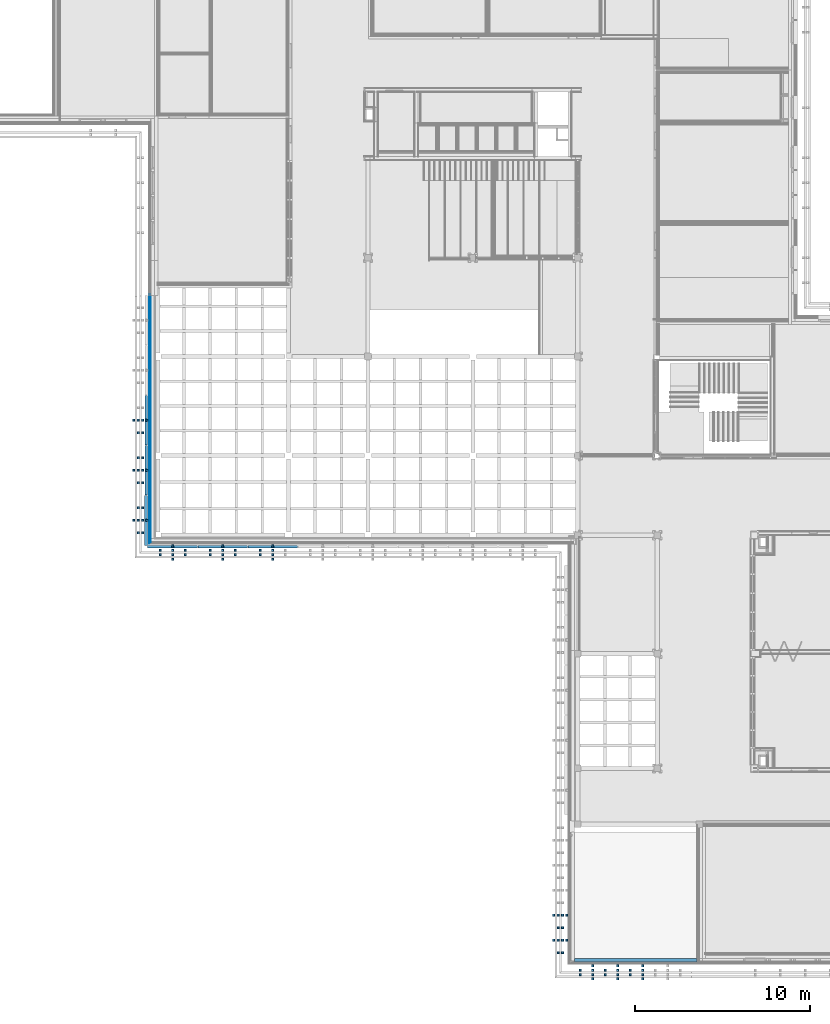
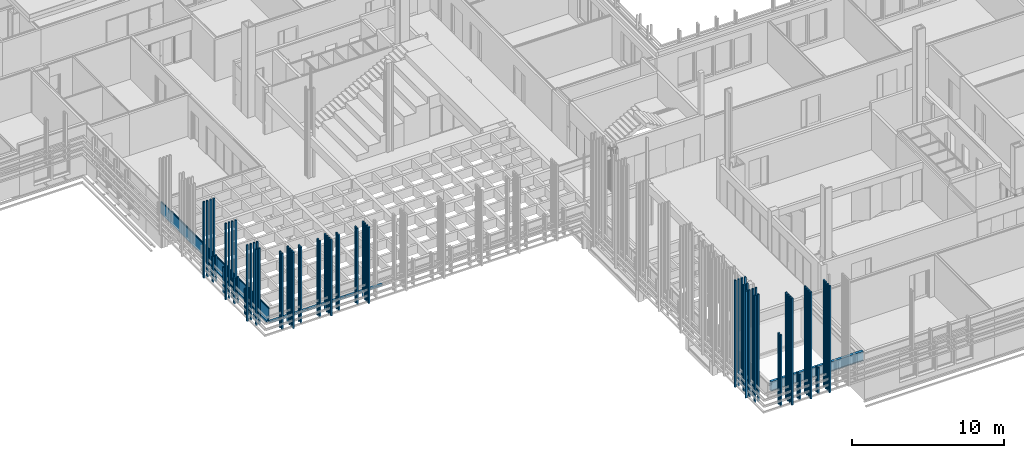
# One storey, part 70 of 139: 32 discrete accessories, 7 building element parts, 2 elements without a shape of their own.
"""IFC2X3 building model written with IfcOpenShell, lengths in millimetres."""

import ifcopenshell
import ifcopenshell.guid

model = None  # the IFC model being written
_history = None  # IfcOwnerHistory: only IFC2X3 demands one
_inside = {}  # id of a spatial element -> (the spatial element, [elements in it])
_under = {}  # id of a project, library or spatial element -> (it, [spatial elements below it])
_declared = {}  # id of a project -> (the project, [libraries it declares])
_typed = {}  # id of a type object -> (the type object, [elements of that type])
_made_of = {}  # id of a material, layer set ... -> (it, [elements and type objects made of it])


def new_model(schema):
    """Start an empty IFC model of exactly this schema.

    Asked for "IFC4X3", IfcOpenShell would pick the latest addendum, in which some entities
    have other attributes; the version numbers below select the first issue.
    IFC2X3 requires an IfcOwnerHistory on every rooted entity: one is made here for all.
    """
    global model, _history
    if schema == "IFC4X3":
        model = ifcopenshell.file(schema_version=(4, 3, 0, 0))
    else:
        model = ifcopenshell.file(schema=schema)
    _inside.clear()
    _under.clear()
    _declared.clear()
    _typed.clear()
    _made_of.clear()
    _history = None
    if model.schema == "IFC2X3":
        org = make("IfcOrganization", Name="unknown")
        user = make(
            "IfcPersonAndOrganization",
            ThePerson=make("IfcPerson", FamilyName="unknown"),
            TheOrganization=org,
        )
        app = make(
            "IfcApplication",
            ApplicationDeveloper=org,
            Version="unknown",
            ApplicationFullName="unknown",
            ApplicationIdentifier="unknown",
        )
        _history = make(
            "IfcOwnerHistory",
            OwningUser=user,
            OwningApplication=app,
            ChangeAction="ADDED",
            CreationDate=0,
        )
    return model


def make(cls, **values):
    """One entity of the class cls with the attributes given. An attribute that is None is left unset."""
    return model.create_entity(
        cls, **{name: value for name, value in values.items() if value is not None}
    )


def entity(cls, *values):
    """Any entity or typed value of the class cls, its attributes in the order of the schema. None: left unset."""
    e = model.create_entity(cls)
    for i, value in enumerate(values):
        if value is not None:
            e[i] = value
    return e


def rooted(cls, **values):
    """An entity with a GlobalId (a new one), such as an element, a storey or a relation."""
    return make(cls, GlobalId=ifcopenshell.guid.new(), OwnerHistory=_history, **values)


def si_unit(unit_type, name, prefix=None):
    """IfcSIUnit, for example si_unit("LENGTHUNIT", "METRE", prefix="MILLI")."""
    return make("IfcSIUnit", UnitType=unit_type, Prefix=prefix, Name=name)


def converted_unit(unit_type, name, factor, base, dimensions=None, offset=None):
    """IfcConversionBasedUnit, such as the inch: factor (a typed value) times the base unit."""
    return make(
        "IfcConversionBasedUnit"
        if offset is None
        else "IfcConversionBasedUnitWithOffset",
        ConversionOffset=offset,
        Dimensions=None
        if dimensions is None
        else entity("IfcDimensionalExponents", *dimensions),
        UnitType=unit_type,
        Name=name,
        ConversionFactor=make(
            "IfcMeasureWithUnit", ValueComponent=factor, UnitComponent=base
        ),
    )


def derived_unit(unit_type, elements):
    """IfcDerivedUnit: a product of units, each with its exponent."""
    return make(
        "IfcDerivedUnit",
        Elements=[
            make("IfcDerivedUnitElement", Unit=unit, Exponent=power)
            for unit, power in elements
        ],
        UnitType=unit_type,
    )


def money_unit(currency):
    """IfcMonetaryUnit."""
    return make("IfcMonetaryUnit", Currency=currency)


def assignment(units):
    """IfcUnitAssignment: the units of a project."""
    return None if units is None else make("IfcUnitAssignment", Units=units)


def point(xyz):
    """IfcCartesianPoint."""
    return None if xyz is None else make("IfcCartesianPoint", Coordinates=xyz)


def direction(xyz):
    """IfcDirection."""
    return None if xyz is None else make("IfcDirection", DirectionRatios=xyz)


def frame(location, z_axis=None, x_axis=None):
    """IfcAxis2Placement3D, a coordinate frame: its origin and axes. An axis left out is left unset."""
    return make(
        "IfcAxis2Placement3D",
        Location=point(location),
        Axis=direction(z_axis),
        RefDirection=direction(x_axis),
    )


def origin_with_axes():
    """The frame at (0, 0, 0) with the z axis (0, 0, 1) and the x axis (1, 0, 0) written out."""
    return frame((0.0, 0.0, 0.0), z_axis=(0.0, 0.0, 1.0), x_axis=(1.0, 0.0, 0.0))


def place(relative_to, where):
    """IfcLocalPlacement: puts the frame where relative to a parent placement (None: the world)."""
    return make(
        "IfcLocalPlacement", PlacementRelTo=relative_to, RelativePlacement=where
    )


def context(
    kind, dimensions, precision=None, world=None, true_north=None, identifier=None
):
    """IfcGeometricRepresentationContext, for example the 3D "Model" context."""
    return make(
        "IfcGeometricRepresentationContext",
        ContextIdentifier=identifier,
        ContextType=kind,
        CoordinateSpaceDimension=dimensions,
        Precision=precision,
        WorldCoordinateSystem=world,
        TrueNorth=true_north,
    )


def subcontext(parent, identifier, kind, view, scale=None):
    """IfcGeometricRepresentationSubContext, for example "Body" below "Model"."""
    return make(
        "IfcGeometricRepresentationSubContext",
        ContextIdentifier=identifier,
        ContextType=kind,
        ParentContext=parent,
        TargetScale=scale,
        TargetView=view,
    )


def project(units=None, contexts=None):
    """IfcProject with its units and contexts."""
    return rooted(
        "IfcProject",
        Name="project",
        RepresentationContexts=contexts,
        UnitsInContext=assignment(units),
    )


def spatial(cls, under=None, at=None, **own):
    """A site, building, storey or space (cls), placed at a placement, below another one or the project."""
    s = rooted(cls, ObjectPlacement=at, **own)
    if under is not None:
        _under.setdefault(under.id(), (under, []))[1].append(s)
    return s


def faces_of(points, faces, orient=None, outer=None):
    """IfcFace entities. A face is a list of loops; a loop is a list of indices into points, from 0.

    orient and outer hold one flag for each loop. By default every Orientation is true, the
    first loop of a face is its IfcFaceOuterBound and the others are IfcFaceBound.
    """
    made = []
    for i, loops in enumerate(faces):
        bounds = []
        for j, loop in enumerate(loops):
            is_outer = j == 0 if outer is None else outer[i][j]
            bounds.append(
                make(
                    "IfcFaceOuterBound" if is_outer else "IfcFaceBound",
                    Bound=make("IfcPolyLoop", Polygon=[points[k] for k in loop]),
                    Orientation=True if orient is None else orient[i][j],
                )
            )
        made.append(make("IfcFace", Bounds=bounds))
    return made


def faceted_brep(points, faces, orient=None, outer=None, voids=None):
    """IfcFacetedBrep: a solid bounded by flat faces; with voids (closed shells), ...WithVoids."""
    shared = [point(p) for p in points]
    hull = make("IfcClosedShell", CfsFaces=faces_of(shared, faces, orient, outer))
    if voids is None:
        return make("IfcFacetedBrep", Outer=hull)
    return make(
        "IfcFacetedBrepWithVoids",
        Outer=hull,
        Voids=[
            make(cls, CfsFaces=faces_of(shared, fs, o, b)) for cls, fs, o, b in voids
        ],
    )


def shape(context_of_items, identifier, shape_type, items):
    """IfcShapeRepresentation: the items that make up one representation, for example the "Body"."""
    return make(
        "IfcShapeRepresentation",
        ContextOfItems=context_of_items,
        RepresentationIdentifier=identifier,
        RepresentationType=shape_type,
        Items=items,
    )


def material(Name=None, Category=None):
    """IfcMaterial."""
    return make("IfcMaterial", Name=Name, Category=Category)


def material_list(materials):
    """IfcMaterialList."""
    return make("IfcMaterialList", Materials=materials)


def made_of(thing, what):
    """Note that an element or type object is made of a material, layer set ...; save() writes the relation."""
    if what is not None:
        _made_of.setdefault(what.id(), (what, []))[1].append(thing)
    return thing


def type_object(cls, material=None, **own):
    """A type object (cls), such as IfcWallType, which elements share."""
    return made_of(rooted(cls, **own), material)


def element(
    cls,
    number,
    at=None,
    inside=None,
    cuts=None,
    type_object=None,
    material=None,
    context=None,
    identifier="Body",
    shape_type=None,
    held_by="IfcProductDefinitionShape",
    body=None,
    shapes=None,
    **own,
):
    """One element of the class cls, such as IfcWall. Its Tag is "e" and its number.

    at: its placement. inside: the storey or other place that contains it. cuts: it is an
    opening in that element (IfcRelVoidsElement). A single representation is given by context,
    identifier, shape_type and body (its items); several are given by shapes. held_by: the class
    of the entity that holds the representations. save() writes the other relations.
    """
    e = rooted(cls, Tag="e%d" % number, ObjectPlacement=at, **own)
    if body is not None:
        shapes = [shape(context, identifier, shape_type, body)]
    if shapes is not None:
        e.Representation = make(held_by, Representations=shapes)
    if inside is not None:
        _inside.setdefault(inside.id(), (inside, []))[1].append(e)
    if cuts is not None:
        rooted(
            "IfcRelVoidsElement", RelatingBuildingElement=cuts, RelatedOpeningElement=e
        )
    if type_object is not None:
        _typed.setdefault(type_object.id(), (type_object, []))[1].append(e)
    return made_of(e, material)


def aggregate(whole, parts):
    """IfcRelAggregates: a whole, such as a stair, and the parts it consists of."""
    return rooted("IfcRelAggregates", RelatingObject=whole, RelatedObjects=parts)


def save(model, path):
    """Write the relations noted so far, then the file.

    IfcRelAggregates (storeys below a building ...), IfcRelContainedInSpatialStructure (elements
    in a storey), IfcRelDefinesByType, IfcRelAssociatesMaterial and IfcRelDeclares: one each for
    every whole, place, type object, material and project.
    """
    for whole, parts in _under.values():
        aggregate(whole, parts)
    for where, things in _inside.values():
        rooted(
            "IfcRelContainedInSpatialStructure",
            RelatedElements=things,
            RelatingStructure=where,
        )
    for kind, things in _typed.values():
        rooted("IfcRelDefinesByType", RelatedObjects=things, RelatingType=kind)
    for what, things in _made_of.values():
        rooted("IfcRelAssociatesMaterial", RelatedObjects=things, RelatingMaterial=what)
    for by, libraries in _declared.values():
        rooted("IfcRelDeclares", RelatingContext=by, RelatedDefinitions=libraries)
    model.write(path)


model = new_model("IFC2X3")

# Units and contexts
model_context = context("Model", 3, precision=0.01, world=origin_with_axes(), true_north=direction((0.0, 1.0)))
body_context = subcontext(model_context, "Body", "Model", "MODEL_VIEW")
ifc_project = project(units=[si_unit("LENGTHUNIT", "METRE", prefix="MILLI"), si_unit("AREAUNIT", "SQUARE_METRE"), si_unit("VOLUMEUNIT", "CUBIC_METRE"), converted_unit("PLANEANGLEUNIT", "DEGREE", entity("IfcPlaneAngleMeasure", 0.0174532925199), si_unit("PLANEANGLEUNIT", "RADIAN"), dimensions=[0, 0, 0, 0, 0, 0, 0]), money_unit("EUR"), converted_unit("TIMEUNIT", "Year", entity("IfcTimeMeasure", 31556926.0), si_unit("TIMEUNIT", "SECOND"), dimensions=[0, 0, 1, 0, 0, 0, 0]), si_unit("MASSUNIT", "GRAM", prefix="KILO"), si_unit("THERMODYNAMICTEMPERATUREUNIT", "DEGREE_CELSIUS"), si_unit("LUMINOUSINTENSITYUNIT", "LUMEN"), si_unit("ENERGYUNIT", "JOULE", prefix="MEGA"), derived_unit("THERMALCONDUCTANCEUNIT", [(si_unit("POWERUNIT", "WATT"), 1), (si_unit("LENGTHUNIT", "METRE"), -1), (si_unit("THERMODYNAMICTEMPERATUREUNIT", "KELVIN"), -1)]), derived_unit("SPECIFICHEATCAPACITYUNIT", [(si_unit("ENERGYUNIT", "JOULE"), 1), (si_unit("MASSUNIT", "GRAM", prefix="KILO"), -1), (si_unit("THERMODYNAMICTEMPERATUREUNIT", "KELVIN"), -1)]), derived_unit("MASSDENSITYUNIT", [(si_unit("MASSUNIT", "GRAM", prefix="KILO"), 1), (si_unit("VOLUMEUNIT", "CUBIC_METRE"), -1)])], contexts=[model_context])

# Site, building, storey
site_placement = place(None, origin_with_axes())
site = spatial("IfcSite", under=ifc_project, at=site_placement, Name="Kolde pst 67a", CompositionType="ELEMENT")
building_placement = place(site_placement, origin_with_axes())
building = spatial("IfcBuilding", under=site, at=building_placement, Name="Riigigümnaasium", CompositionType="ELEMENT")
storey_placement = place(building_placement, frame((0.0, 0.0, 4600.0), z_axis=(0.0, 0.0, 1.0), x_axis=(1.0, 0.0, 0.0)))
storey = spatial("IfcBuildingStorey", under=building, at=storey_placement, Name="2. korrus", CompositionType="ELEMENT", Elevation=4600.0)

# Discrete accessories
ifc_material_1 = material(Name="_VÄLISVIIMISTLUS - sõrmjätkatud puitprussid 120x115mm, liitekohad vähemärgatavad, Platowood sõrmjätkatud kuusk või samaväärne; eeltöödeldud tuletõkkevõõbaga, tuletundlikkus B-s1, d0, Woodsafe Exterior WFX™ või samaväärne; kinnitused vastavalt EK osale")
ifc_material_list_1 = material_list([ifc_material_1, ifc_material_1, ifc_material_1, ifc_material_1])
discrete_accessory_type_1 = type_object("IfcDiscreteAccessoryType", Name="120 4-ne vertikaalne 870 x 115")
for number, where, z_axis, x_axis in (
    (1, (49092.5231834, -312.0, 2150.0), (0.0, 0.0, 1.0), (0.0, -1.0, 0.0)),
    (2, (50522.5232021, -312.0, 2150.0), (0.0, 0.0, 1.0), (0.0, -1.0, 0.0)),
    (3, (51952.5232021, -312.0, 2150.0), (0.0, 0.0, 1.0), (0.0, -1.0, 0.0)),
):
    element("IfcDiscreteAccessory", number, at=place(storey_placement, frame(where, z_axis=z_axis, x_axis=x_axis)), inside=storey, type_object=discrete_accessory_type_1, material=ifc_material_list_1, Name="Päikesevarjestus", context=body_context, shape_type="Brep", body=[
        faceted_brep([(133.0, 45.0, 0.0), (13.0, 45.0, 0.0), (13.0, 45.0, 8580.0), (133.0, 45.0, 8580.0), (133.0, -70.0, 0.0), (13.0, -70.0, 0.0), (13.0, -70.0, 8580.0), (133.0, -70.0, 8580.0)], [[[0, 1, 2, 3]], [[0, 4, 5, 1]], [[1, 5, 6, 2]], [[3, 2, 6, 7]], [[4, 0, 3, 7]], [[5, 4, 7, 6]]]),
        faceted_brep([(383.0, 45.0, 0.0), (263.0, 45.0, 0.0), (263.0, 45.0, 8580.0), (383.0, 45.0, 8580.0), (383.0, -70.0, 0.0), (263.0, -70.0, 0.0), (263.0, -70.0, 8580.0), (383.0, -70.0, 8580.0)], [[[0, 1, 2, 3]], [[0, 4, 5, 1]], [[1, 5, 6, 2]], [[3, 2, 6, 7]], [[4, 0, 3, 7]], [[5, 4, 7, 6]]]),
        faceted_brep([(633.0, 45.0, 0.0), (513.0, 45.0, 0.0), (513.0, 45.0, 8580.0), (633.0, 45.0, 8580.0), (633.0, -70.0, 0.0), (513.0, -70.0, 0.0), (513.0, -70.0, 8580.0), (633.0, -70.0, 8580.0)], [[[0, 1, 2, 3]], [[0, 4, 5, 1]], [[1, 5, 6, 2]], [[3, 2, 6, 7]], [[4, 0, 3, 7]], [[5, 4, 7, 6]]]),
        faceted_brep([(883.0, 45.0, 0.0), (763.0, 45.0, 0.0), (763.0, 45.0, 8580.0), (883.0, 45.0, 8580.0), (883.0, -70.0, 0.0), (763.0, -70.0, 0.0), (763.0, -70.0, 8580.0), (883.0, -70.0, 8580.0)], [[[0, 1, 2, 3]], [[0, 4, 5, 1]], [[1, 5, 6, 2]], [[3, 2, 6, 7]], [[4, 0, 3, 7]], [[5, 4, 7, 6]]]),
    ])
discrete_accessory_1_placement = place(storey_placement, frame((23688.0028833, 25093.000092, 2150.0), z_axis=(0.0, 0.0, 1.0), x_axis=(0.999999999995, 3.13999128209e-06, 0.0)))
element("IfcDiscreteAccessory", 4, at=discrete_accessory_1_placement, inside=storey, type_object=discrete_accessory_type_1, material=ifc_material_list_1, Name="Päikesevarjestus", context=body_context, shape_type="Brep", body=[
    faceted_brep([(-48.0042261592, 45.0, 0.0), (-48.0042261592, 45.0, 519.999999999), (-48.0042261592, 45.0, 669.999999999), (-133.0, 45.0, 669.999999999), (-133.0, 45.0, 6130.0), (-13.0, 45.0, 6130.0), (-13.0, 45.0, 0.0), (-48.0042261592, -70.0, 519.999999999), (-48.0042261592, -70.0, 0.0), (-48.0042261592, -70.0, 669.999999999), (-133.0, -70.0, 669.999999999), (-133.0, -70.0, 6130.0), (-13.0, -70.0, 6130.0), (-13.0, -70.0, 0.0)], [[[0, 1, 2, 3, 4, 5, 6]], [[7, 1, 0, 8]], [[1, 7, 9, 2]], [[10, 3, 2, 9]], [[4, 3, 10, 11]], [[5, 4, 11, 12]], [[5, 12, 13, 6]], [[8, 0, 6, 13]], [[7, 8, 13, 12, 11, 10, 9]]]),
    faceted_brep([(-383.0, -70.0, 0.0), (-263.0, -70.0, 0.0), (-263.0, -70.0, 6130.0), (-383.0, -70.0, 6130.0), (-383.0, 45.0, 0.0), (-263.0, 45.0, 0.0), (-263.0, 45.0, 6130.0), (-383.0, 45.0, 6130.0)], [[[0, 1, 2, 3]], [[0, 4, 5, 1]], [[1, 5, 6, 2]], [[3, 2, 6, 7]], [[4, 0, 3, 7]], [[5, 4, 7, 6]]]),
    faceted_brep([(-633.0, -70.0, 0.0), (-513.0, -70.0, 0.0), (-513.0, -70.0, 6130.0), (-633.0, -70.0, 6130.0), (-633.0, 45.0, 0.0), (-513.0, 45.0, 0.0), (-513.0, 45.0, 6130.0), (-633.0, 45.0, 6130.0)], [[[0, 1, 2, 3]], [[0, 4, 5, 1]], [[1, 5, 6, 2]], [[3, 2, 6, 7]], [[4, 0, 3, 7]], [[5, 4, 7, 6]]]),
    faceted_brep([(-883.0, -70.0, 0.0), (-763.0, -70.0, 0.0), (-763.0, -70.0, 6130.0), (-883.0, -70.0, 6130.0), (-883.0, 45.0, 0.0), (-763.0, 45.0, 0.0), (-763.0, 45.0, 6130.0), (-883.0, 45.0, 6130.0)], [[[0, 1, 2, 3]], [[0, 4, 5, 1]], [[1, 5, 6, 2]], [[3, 2, 6, 7]], [[4, 0, 3, 7]], [[5, 4, 7, 6]]]),
])
discrete_accessory_2_placement = place(storey_placement, frame((23688.0028833, 27953.0005316, 2150.0), z_axis=(0.0, 0.0, 1.0), x_axis=(0.999999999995, 3.13999128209e-06, 0.0)))
element("IfcDiscreteAccessory", 5, at=discrete_accessory_2_placement, inside=storey, type_object=discrete_accessory_type_1, material=ifc_material_list_1, Name="Päikesevarjestus", context=body_context, shape_type="Brep", body=[
    faceted_brep([(-47.8352068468, 45.0, 0.0), (-47.8352068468, 45.0, 519.999999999), (-47.8352068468, 45.0, 669.999999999), (-133.0, 45.0, 669.999999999), (-133.0, 45.0, 6130.0), (-13.0, 45.0, 6130.0), (-13.0, 45.0, 0.0), (-47.8355679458, -70.0, 519.999999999), (-47.8355679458, -70.0, 0.0), (-47.8355679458, -70.0, 669.999999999), (-133.0, -70.0, 669.999999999), (-133.0, -70.0, 6130.0), (-13.0, -70.0, 6130.0), (-13.0, -70.0, 0.0)], [[[0, 1, 2, 3, 4, 5, 6]], [[7, 1, 0, 8]], [[1, 7, 9, 2]], [[10, 3, 2, 9]], [[4, 3, 10, 11]], [[5, 4, 11, 12]], [[5, 12, 13, 6]], [[8, 0, 6, 13]], [[7, 8, 13, 12, 11, 10, 9]]]),
    faceted_brep([(-383.0, -70.0, 0.0), (-263.0, -70.0, 0.0), (-263.0, -70.0, 6130.0), (-383.0, -70.0, 6130.0), (-383.0, 45.0, 0.0), (-263.0, 45.0, 0.0), (-263.0, 45.0, 6130.0), (-383.0, 45.0, 6130.0)], [[[0, 1, 2, 3]], [[0, 4, 5, 1]], [[1, 5, 6, 2]], [[3, 2, 6, 7]], [[4, 0, 3, 7]], [[5, 4, 7, 6]]]),
    faceted_brep([(-633.0, -70.0, 0.0), (-513.0, -70.0, 0.0), (-513.0, -70.0, 6130.0), (-633.0, -70.0, 6130.0), (-633.0, 45.0, 0.0), (-513.0, 45.0, 0.0), (-513.0, 45.0, 6130.0), (-633.0, 45.0, 6130.0)], [[[0, 1, 2, 3]], [[0, 4, 5, 1]], [[1, 5, 6, 2]], [[3, 2, 6, 7]], [[4, 0, 3, 7]], [[5, 4, 7, 6]]]),
    faceted_brep([(-883.0, -70.0, 0.0), (-763.0, -70.0, 0.0), (-763.0, -70.0, 6130.0), (-883.0, -70.0, 6130.0), (-883.0, 45.0, 0.0), (-763.0, 45.0, 0.0), (-763.0, 45.0, 6130.0), (-883.0, 45.0, 6130.0)], [[[0, 1, 2, 3]], [[0, 4, 5, 1]], [[1, 5, 6, 2]], [[3, 2, 6, 7]], [[4, 0, 3, 7]], [[5, 4, 7, 6]]]),
])
discrete_accessory_3_placement = place(storey_placement, frame((23688.0028833, 30813.0009712, 2150.0), z_axis=(0.0, 0.0, 1.0), x_axis=(0.999999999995, 3.13999128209e-06, 0.0)))
element("IfcDiscreteAccessory", 6, at=discrete_accessory_3_placement, inside=storey, type_object=discrete_accessory_type_1, material=ifc_material_list_1, Name="Päikesevarjestus", context=body_context, shape_type="Brep", body=[
    faceted_brep([(-47.6620663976, 45.0, 0.0), (-47.6620663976, 45.0, 519.999999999), (-47.6620663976, 45.0, 669.999999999), (-133.0, 45.0, 669.999999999), (-133.0, 45.0, 6130.0), (-13.0, 45.0, 6130.0), (-13.0, 45.0, 0.0), (-47.6624274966, -70.0, 519.999999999), (-47.6624274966, -70.0, 0.0), (-47.6624274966, -70.0, 669.999999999), (-133.0, -70.0, 669.999999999), (-133.0, -70.0, 6130.0), (-13.0, -70.0, 6130.0), (-13.0, -70.0, 0.0)], [[[0, 1, 2, 3, 4, 5, 6]], [[7, 1, 0, 8]], [[1, 7, 9, 2]], [[10, 3, 2, 9]], [[4, 3, 10, 11]], [[5, 4, 11, 12]], [[5, 12, 13, 6]], [[8, 0, 6, 13]], [[7, 8, 13, 12, 11, 10, 9]]]),
    faceted_brep([(-383.0, -70.0, 0.0), (-263.0, -70.0, 0.0), (-263.0, -70.0, 6130.0), (-383.0, -70.0, 6130.0), (-383.0, 45.0, 0.0), (-263.0, 45.0, 0.0), (-263.0, 45.0, 6130.0), (-383.0, 45.0, 6130.0)], [[[0, 1, 2, 3]], [[0, 4, 5, 1]], [[1, 5, 6, 2]], [[3, 2, 6, 7]], [[4, 0, 3, 7]], [[5, 4, 7, 6]]]),
    faceted_brep([(-633.0, -70.0, 0.0), (-513.0, -70.0, 0.0), (-513.0, -70.0, 6130.0), (-633.0, -70.0, 6130.0), (-633.0, 45.0, 0.0), (-513.0, 45.0, 0.0), (-513.0, 45.0, 6130.0), (-633.0, 45.0, 6130.0)], [[[0, 1, 2, 3]], [[0, 4, 5, 1]], [[1, 5, 6, 2]], [[3, 2, 6, 7]], [[4, 0, 3, 7]], [[5, 4, 7, 6]]]),
    faceted_brep([(-883.0, -70.0, 0.0), (-763.0, -70.0, 0.0), (-763.0, -70.0, 6130.0), (-883.0, -70.0, 6130.0), (-883.0, 45.0, 0.0), (-763.0, 45.0, 0.0), (-763.0, 45.0, 6130.0), (-883.0, 45.0, 6130.0)], [[[0, 1, 2, 3]], [[0, 4, 5, 1]], [[1, 5, 6, 2]], [[3, 2, 6, 7]], [[4, 0, 3, 7]], [[5, 4, 7, 6]]]),
])
discrete_accessory_4_placement = place(storey_placement, frame((25067.5025222, 23687.999745, 2150.0), z_axis=(0.0, 0.0, 1.0), x_axis=(-3.13999128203e-06, 0.999999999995, 0.0)))
element("IfcDiscreteAccessory", 7, at=discrete_accessory_4_placement, inside=storey, type_object=discrete_accessory_type_1, material=ifc_material_list_1, Name="Päikesevarjestus", context=body_context, shape_type="Brep", body=[
    faceted_brep([(-47.9186339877, 45.0, 519.999999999), (-47.9120331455, -70.0, 519.999999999), (-47.9120331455, -70.0, 669.999999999), (-47.9186339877, 45.0, 669.999999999), (-47.9120331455, -70.0, 0.0), (-47.9186339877, 45.0, 0.0), (-13.0, -70.0, 0.0), (-13.0, -70.0, 6130.0), (-133.0, -70.0, 6130.0), (-133.0, -70.0, 669.999999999), (-133.0, 45.0, 669.999999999), (-133.0, 45.0, 6130.0), (-13.0, 45.0, 6130.0), (-13.0, 45.0, 0.0)], [[[0, 1, 2, 3]], [[4, 1, 0, 5]], [[1, 4, 6, 7, 8, 9, 2]], [[3, 2, 9, 10]], [[5, 0, 3, 10, 11, 12, 13]], [[4, 5, 13, 6]], [[13, 12, 7, 6]], [[7, 12, 11, 8]], [[11, 10, 9, 8]]]),
    faceted_brep([(-383.0, -70.0, 0.0), (-263.0, -70.0, 0.0), (-263.0, -70.0, 6130.0), (-383.0, -70.0, 6130.0), (-383.0, 45.0, 0.0), (-263.0, 45.0, 0.0), (-263.0, 45.0, 6130.0), (-383.0, 45.0, 6130.0)], [[[0, 1, 2, 3]], [[0, 4, 5, 1]], [[1, 5, 6, 2]], [[3, 2, 6, 7]], [[4, 0, 3, 7]], [[5, 4, 7, 6]]]),
    faceted_brep([(-633.0, -70.0, 0.0), (-513.0, -70.0, 0.0), (-513.0, -70.0, 6130.0), (-633.0, -70.0, 6130.0), (-633.0, 45.0, 0.0), (-513.0, 45.0, 0.0), (-513.0, 45.0, 6130.0), (-633.0, 45.0, 6130.0)], [[[0, 1, 2, 3]], [[0, 4, 5, 1]], [[1, 5, 6, 2]], [[3, 2, 6, 7]], [[4, 0, 3, 7]], [[5, 4, 7, 6]]]),
    faceted_brep([(-883.0, -70.0, 0.0), (-763.0, -70.0, 0.0), (-763.0, -70.0, 6130.0), (-883.0, -70.0, 6130.0), (-883.0, 45.0, 0.0), (-763.0, 45.0, 0.0), (-763.0, 45.0, 6130.0), (-883.0, 45.0, 6130.0)], [[[0, 1, 2, 3]], [[0, 4, 5, 1]], [[1, 5, 6, 2]], [[3, 2, 6, 7]], [[4, 0, 3, 7]], [[5, 4, 7, 6]]]),
])
for number, where, z_axis, x_axis in (
    (8, (47687.9900449, 1067.45041029, 2150.0), (0.0, 0.0, 1.0), (-0.999999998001, -6.3231630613e-05, 0.0)),
    (9, (47687.9900449, 2497.45041215, 2150.0), (0.0, 0.0, 1.0), (-0.999999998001, -6.3231630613e-05, 0.0)),
):
    element("IfcDiscreteAccessory", number, at=place(storey_placement, frame(where, z_axis=z_axis, x_axis=x_axis)), inside=storey, type_object=discrete_accessory_type_1, material=ifc_material_list_1, Name="Päikesevarjestus", context=body_context, shape_type="Brep", body=[
        faceted_brep([(133.0, 45.0, 0.0), (13.0, 45.0, 0.0), (13.0, 45.0, 8580.0), (133.0, 45.0, 8580.0), (133.0, -70.0, 0.0), (13.0, -70.0, 0.0), (13.0, -70.0, 8580.0), (133.0, -70.0, 8580.0)], [[[0, 1, 2, 3]], [[0, 4, 5, 1]], [[1, 5, 6, 2]], [[3, 2, 6, 7]], [[4, 0, 3, 7]], [[5, 4, 7, 6]]]),
        faceted_brep([(383.0, 45.0, 0.0), (263.0, 45.0, 0.0), (263.0, 45.0, 8580.0), (383.0, 45.0, 8580.0), (383.0, -70.0, 0.0), (263.0, -70.0, 0.0), (263.0, -70.0, 8580.0), (383.0, -70.0, 8580.0)], [[[0, 1, 2, 3]], [[0, 4, 5, 1]], [[1, 5, 6, 2]], [[3, 2, 6, 7]], [[4, 0, 3, 7]], [[5, 4, 7, 6]]]),
        faceted_brep([(633.0, 45.0, 0.0), (513.0, 45.0, 0.0), (513.0, 45.0, 8580.0), (633.0, 45.0, 8580.0), (633.0, -70.0, 0.0), (513.0, -70.0, 0.0), (513.0, -70.0, 8580.0), (633.0, -70.0, 8580.0)], [[[0, 1, 2, 3]], [[0, 4, 5, 1]], [[1, 5, 6, 2]], [[3, 2, 6, 7]], [[4, 0, 3, 7]], [[5, 4, 7, 6]]]),
        faceted_brep([(883.0, 45.0, 0.0), (763.0, 45.0, 0.0), (763.0, 45.0, 8580.0), (883.0, 45.0, 8580.0), (883.0, -70.0, 0.0), (763.0, -70.0, 0.0), (763.0, -70.0, 8580.0), (883.0, -70.0, 8580.0)], [[[0, 1, 2, 3]], [[0, 4, 5, 1]], [[1, 5, 6, 2]], [[3, 2, 6, 7]], [[4, 0, 3, 7]], [[5, 4, 7, 6]]]),
    ])
discrete_accessory_5_placement = place(storey_placement, frame((27927.492838, 23687.999745, 2150.0), z_axis=(0.0, 0.0, 1.0), x_axis=(-3.13999128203e-06, 0.999999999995, 0.0)))
element("IfcDiscreteAccessory", 10, at=discrete_accessory_5_placement, inside=storey, type_object=discrete_accessory_type_1, material=ifc_material_list_1, Name="Päikesevarjestus", context=body_context, shape_type="Brep", body=[
    faceted_brep([(-47.9186345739, 45.0, 519.999999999), (-47.9120337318, -70.0, 519.999999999), (-47.9120337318, -70.0, 669.999999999), (-47.9186345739, 45.0, 669.999999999), (-47.9120337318, -70.0, 0.0), (-47.9186345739, 45.0, 0.0), (-13.0, -70.0, 0.0), (-13.0, -70.0, 6130.0), (-133.0, -70.0, 6130.0), (-133.0, -70.0, 669.999999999), (-133.0, 45.0, 669.999999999), (-133.0, 45.0, 6130.0), (-13.0, 45.0, 6130.0), (-13.0, 45.0, 0.0)], [[[0, 1, 2, 3]], [[4, 1, 0, 5]], [[1, 4, 6, 7, 8, 9, 2]], [[3, 2, 9, 10]], [[5, 0, 3, 10, 11, 12, 13]], [[4, 5, 13, 6]], [[13, 12, 7, 6]], [[7, 12, 11, 8]], [[11, 10, 9, 8]]]),
    faceted_brep([(-383.0, -70.0, 0.0), (-263.0, -70.0, 0.0), (-263.0, -70.0, 6130.0), (-383.0, -70.0, 6130.0), (-383.0, 45.0, 0.0), (-263.0, 45.0, 0.0), (-263.0, 45.0, 6130.0), (-383.0, 45.0, 6130.0)], [[[0, 1, 2, 3]], [[0, 4, 5, 1]], [[1, 5, 6, 2]], [[3, 2, 6, 7]], [[4, 0, 3, 7]], [[5, 4, 7, 6]]]),
    faceted_brep([(-633.0, -70.0, 0.0), (-513.0, -70.0, 0.0), (-513.0, -70.0, 6130.0), (-633.0, -70.0, 6130.0), (-633.0, 45.0, 0.0), (-513.0, 45.0, 0.0), (-513.0, 45.0, 6130.0), (-633.0, 45.0, 6130.0)], [[[0, 1, 2, 3]], [[0, 4, 5, 1]], [[1, 5, 6, 2]], [[3, 2, 6, 7]], [[4, 0, 3, 7]], [[5, 4, 7, 6]]]),
    faceted_brep([(-883.0, -70.0, 0.0), (-763.0, -70.0, 0.0), (-763.0, -70.0, 6130.0), (-883.0, -70.0, 6130.0), (-883.0, 45.0, 0.0), (-763.0, 45.0, 0.0), (-763.0, 45.0, 6130.0), (-883.0, 45.0, 6130.0)], [[[0, 1, 2, 3]], [[0, 4, 5, 1]], [[1, 5, 6, 2]], [[3, 2, 6, 7]], [[4, 0, 3, 7]], [[5, 4, 7, 6]]]),
])
discrete_accessory_6_placement = place(storey_placement, frame((30787.4928368, 23687.999745, 2150.0), z_axis=(0.0, 0.0, 1.0), x_axis=(-3.13999128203e-06, 0.999999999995, 0.0)))
element("IfcDiscreteAccessory", 11, at=discrete_accessory_6_placement, inside=storey, type_object=discrete_accessory_type_1, material=ifc_material_list_1, Name="Päikesevarjestus", context=body_context, shape_type="Brep", body=[
    faceted_brep([(-47.918634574, 45.0, 519.999999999), (-47.9120337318, -70.0, 519.999999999), (-47.9120337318, -70.0, 669.999999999), (-47.918634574, 45.0, 669.999999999), (-47.9120337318, -70.0, 0.0), (-47.918634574, 45.0, 0.0), (-13.0, -70.0, 0.0), (-13.0, -70.0, 6130.0), (-133.0, -70.0, 6130.0), (-133.0, -70.0, 669.999999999), (-133.0, 45.0, 669.999999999), (-133.0, 45.0, 6130.0), (-13.0, 45.0, 6130.0), (-13.0, 45.0, 0.0)], [[[0, 1, 2, 3]], [[4, 1, 0, 5]], [[1, 4, 6, 7, 8, 9, 2]], [[3, 2, 9, 10]], [[5, 0, 3, 10, 11, 12, 13]], [[4, 5, 13, 6]], [[13, 12, 7, 6]], [[7, 12, 11, 8]], [[11, 10, 9, 8]]]),
    faceted_brep([(-383.0, -70.0, 0.0), (-263.0, -70.0, 0.0), (-263.0, -70.0, 6130.0), (-383.0, -70.0, 6130.0), (-383.0, 45.0, 0.0), (-263.0, 45.0, 0.0), (-263.0, 45.0, 6130.0), (-383.0, 45.0, 6130.0)], [[[0, 1, 2, 3]], [[0, 4, 5, 1]], [[1, 5, 6, 2]], [[3, 2, 6, 7]], [[4, 0, 3, 7]], [[5, 4, 7, 6]]]),
    faceted_brep([(-633.0, -70.0, 0.0), (-513.0, -70.0, 0.0), (-513.0, -70.0, 6130.0), (-633.0, -70.0, 6130.0), (-633.0, 45.0, 0.0), (-513.0, 45.0, 0.0), (-513.0, 45.0, 6130.0), (-633.0, 45.0, 6130.0)], [[[0, 1, 2, 3]], [[0, 4, 5, 1]], [[1, 5, 6, 2]], [[3, 2, 6, 7]], [[4, 0, 3, 7]], [[5, 4, 7, 6]]]),
    faceted_brep([(-883.0, -70.0, 0.0), (-763.0, -70.0, 0.0), (-763.0, -70.0, 6130.0), (-883.0, -70.0, 6130.0), (-883.0, 45.0, 0.0), (-763.0, 45.0, 0.0), (-763.0, 45.0, 6130.0), (-883.0, 45.0, 6130.0)], [[[0, 1, 2, 3]], [[0, 4, 5, 1]], [[1, 5, 6, 2]], [[3, 2, 6, 7]], [[4, 0, 3, 7]], [[5, 4, 7, 6]]]),
])
ifc_material_list_2 = material_list([ifc_material_1, ifc_material_1])
discrete_accessory_type_2 = type_object("IfcDiscreteAccessoryType", Name="1+paiksekaitse 3 370 x 115")
discrete_accessory_7_placement = place(storey_placement, frame((48424.1519055, -1292.00007473, 2150.0), z_axis=(0.0, 0.0, 1.0), x_axis=(0.0, 1.0, 0.0)))
element("IfcDiscreteAccessory", 12, at=discrete_accessory_7_placement, inside=storey, type_object=discrete_accessory_type_2, material=ifc_material_list_2, Name="Päikesevarjestus", context=body_context, shape_type="Brep", body=[
    faceted_brep([(467.0, 117.5, 0.0), (347.0, 117.5, 0.0), (347.0, 117.5, 5727.5), (467.0, 117.5, 5727.5), (467.0, 2.5, 0.0), (347.0, 2.5, 0.0), (347.0, 2.5, 5727.5), (467.0, 2.5, 5727.5)], [[[0, 1, 2, 3]], [[0, 4, 5, 1]], [[1, 5, 6, 2]], [[3, 2, 6, 7]], [[4, 0, 3, 7]], [[5, 4, 7, 6]]]),
    faceted_brep([(717.0, 117.5, 0.0), (597.0, 117.5, 0.0), (597.0, 117.5, 5727.5), (717.0, 117.5, 5727.5), (717.0, 2.5, 0.0), (597.0, 2.5, 0.0), (597.0, 2.5, 5727.5), (717.0, 2.5, 5727.5)], [[[0, 1, 2, 3]], [[0, 4, 5, 1]], [[1, 5, 6, 2]], [[3, 2, 6, 7]], [[4, 0, 3, 7]], [[5, 4, 7, 6]]]),
])
for number, where, z_axis, x_axis in (
    (13, (49855.0232019, -1291.99423775, 2150.0), (0.0, 0.0, 1.0), (0.0, 1.0, 0.0)),
    (14, (51285.0097738, -1291.99039628, 2150.0), (0.0, 0.0, 1.0), (0.0, 1.0, 0.0)),
):
    element("IfcDiscreteAccessory", number, at=place(storey_placement, frame(where, z_axis=z_axis, x_axis=x_axis)), inside=storey, type_object=discrete_accessory_type_2, material=ifc_material_list_2, Name="Päikesevarjestus", context=body_context, shape_type="Brep", body=[
        faceted_brep([(467.0, 117.5, 0.0), (347.0, 117.5, 0.0), (347.0, 117.5, 2090.0), (467.0, 117.5, 2090.0), (467.0, 2.5, 0.0), (347.0, 2.5, 0.0), (347.0, 2.5, 2090.0), (467.0, 2.5, 2090.0)], [[[0, 1, 2, 3]], [[0, 4, 5, 1]], [[1, 5, 6, 2]], [[3, 2, 6, 7]], [[4, 0, 3, 7]], [[5, 4, 7, 6]]]),
        faceted_brep([(717.0, 117.5, 0.0), (597.0, 117.5, 0.0), (597.0, 117.5, 2090.0), (717.0, 117.5, 2090.0), (717.0, 2.5, 0.0), (597.0, 2.5, 0.0), (597.0, 2.5, 2090.0), (717.0, 2.5, 2090.0)], [[[0, 1, 2, 3]], [[0, 4, 5, 1]], [[1, 5, 6, 2]], [[3, 2, 6, 7]], [[4, 0, 3, 7]], [[5, 4, 7, 6]]]),
    ])
discrete_accessory_8_placement = place(storey_placement, frame((22708.1079799, 24305.498544, 2150.0), z_axis=(0.0, 0.0, 1.0), x_axis=(1.0, 0.0, 0.0)))
element("IfcDiscreteAccessory", 15, at=discrete_accessory_8_placement, inside=storey, type_object=discrete_accessory_type_2, material=ifc_material_list_2, Name="Päikesevarjestus", context=body_context, shape_type="Brep", body=[
    faceted_brep([(467.0, 117.5, 0.0), (347.0, 117.5, 0.0), (347.0, 117.5, 6130.0), (467.0, 117.5, 6130.0), (467.0, 2.5, 0.0), (347.0, 2.5, 0.0), (347.0, 2.5, 6130.0), (467.0, 2.5, 6130.0)], [[[0, 1, 2, 3]], [[0, 4, 5, 1]], [[1, 5, 6, 2]], [[3, 2, 6, 7]], [[4, 0, 3, 7]], [[5, 4, 7, 6]]]),
    faceted_brep([(717.0, 117.5, 0.0), (597.0, 117.5, 0.0), (597.0, 117.5, 6130.0), (717.0, 117.5, 6130.0), (717.0, 2.5, 0.0), (597.0, 2.5, 0.0), (597.0, 2.5, 6130.0), (717.0, 2.5, 6130.0)], [[[0, 1, 2, 3]], [[0, 4, 5, 1]], [[1, 5, 6, 2]], [[3, 2, 6, 7]], [[4, 0, 3, 7]], [[5, 4, 7, 6]]]),
])
for number, where, z_axis, x_axis in (
    (16, (22708.1079799, 30025.7758044, 2150.0), (0.0, 0.0, 1.0), (1.0, 0.0, 0.0)),
    (17, (22708.1079799, 28595.498544, 2150.0), (0.0, 0.0, 1.0), (1.0, 0.0, 0.0)),
    (18, (22708.1079799, 27165.498544, 2150.0), (0.0, 0.0, 1.0), (1.0, 0.0, 0.0)),
    (19, (22708.1079799, 25735.498544, 2150.0), (0.0, 0.0, 1.0), (1.0, 0.0, 0.0)),
):
    element("IfcDiscreteAccessory", number, at=place(storey_placement, frame(where, z_axis=z_axis, x_axis=x_axis)), inside=storey, type_object=discrete_accessory_type_2, material=ifc_material_list_2, Name="Päikesevarjestus", context=body_context, shape_type="Brep", body=[
        faceted_brep([(467.0, 117.5, 0.0), (347.0, 117.5, 0.0), (347.0, 117.5, 2090.0), (467.0, 117.5, 2090.0), (467.0, 2.5, 0.0), (347.0, 2.5, 0.0), (347.0, 2.5, 2090.0), (467.0, 2.5, 2090.0)], [[[0, 1, 2, 3]], [[0, 4, 5, 1]], [[1, 5, 6, 2]], [[3, 2, 6, 7]], [[4, 0, 3, 7]], [[5, 4, 7, 6]]]),
        faceted_brep([(717.0, 117.5, 0.0), (597.0, 117.5, 0.0), (597.0, 117.5, 2090.0), (717.0, 117.5, 2090.0), (717.0, 2.5, 0.0), (597.0, 2.5, 0.0), (597.0, 2.5, 2090.0), (717.0, 2.5, 2090.0)], [[[0, 1, 2, 3]], [[0, 4, 5, 1]], [[1, 5, 6, 2]], [[3, 2, 6, 7]], [[4, 0, 3, 7]], [[5, 4, 7, 6]]]),
    ])
for number, where, z_axis, x_axis in (
    (20, (24424.9908819, 22707.9999727, 2150.0), (0.0, 0.0, 1.0), (0.0, 1.0, 0.0)),
    (21, (25855.0059762, 22707.9999727, 2150.0), (0.0, 0.0, 1.0), (0.0, 1.0, 0.0)),
    (22, (27285.0059762, 22707.9999727, 2150.0), (0.0, 0.0, 1.0), (0.0, 1.0, 0.0)),
    (23, (28715.0059762, 22707.9999727, 2150.0), (0.0, 0.0, 1.0), (0.0, 1.0, 0.0)),
    (24, (30145.0059762, 22707.9999727, 2150.0), (0.0, 0.0, 1.0), (0.0, 1.0, 0.0)),
):
    element("IfcDiscreteAccessory", number, at=place(storey_placement, frame(where, z_axis=z_axis, x_axis=x_axis)), inside=storey, type_object=discrete_accessory_type_2, material=ifc_material_list_2, Name="Päikesevarjestus", context=body_context, shape_type="Brep", body=[
        faceted_brep([(467.0, 117.5, 0.0), (347.0, 117.5, 0.0), (347.0, 117.5, 6130.0), (467.0, 117.5, 6130.0), (467.0, 2.5, 0.0), (347.0, 2.5, 0.0), (347.0, 2.5, 6130.0), (467.0, 2.5, 6130.0)], [[[0, 1, 2, 3]], [[0, 4, 5, 1]], [[1, 5, 6, 2]], [[3, 2, 6, 7]], [[4, 0, 3, 7]], [[5, 4, 7, 6]]]),
        faceted_brep([(717.0, 117.5, 0.0), (597.0, 117.5, 0.0), (597.0, 117.5, 6130.0), (717.0, 117.5, 6130.0), (717.0, 2.5, 0.0), (597.0, 2.5, 0.0), (597.0, 2.5, 6130.0), (717.0, 2.5, 6130.0)], [[[0, 1, 2, 3]], [[0, 4, 5, 1]], [[1, 5, 6, 2]], [[3, 2, 6, 7]], [[4, 0, 3, 7]], [[5, 4, 7, 6]]]),
    ])
for number, where, z_axis, x_axis in (
    (25, (46707.9854612, 1734.91924005, 2150.0), (0.0, 0.0, 1.0), (1.0, 0.0, 0.0)),
    (26, (46707.9854612, 304.919240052, 2150.0), (0.0, 0.0, 1.0), (1.0, 0.0, 0.0)),
):
    element("IfcDiscreteAccessory", number, at=place(storey_placement, frame(where, z_axis=z_axis, x_axis=x_axis)), inside=storey, type_object=discrete_accessory_type_2, material=ifc_material_list_2, Name="Päikesevarjestus", context=body_context, shape_type="Brep", body=[
        faceted_brep([(467.0, 117.5, 0.0), (347.0, 117.5, 0.0), (347.0, 117.5, 8580.0), (467.0, 117.5, 8580.0), (467.0, 2.5, 0.0), (347.0, 2.5, 0.0), (347.0, 2.5, 8580.0), (467.0, 2.5, 8580.0)], [[[0, 1, 2, 3]], [[0, 4, 5, 1]], [[1, 5, 6, 2]], [[3, 2, 6, 7]], [[4, 0, 3, 7]], [[5, 4, 7, 6]]]),
        faceted_brep([(717.0, 117.5, 0.0), (597.0, 117.5, 0.0), (597.0, 117.5, 8580.0), (717.0, 117.5, 8580.0), (717.0, 2.5, 0.0), (597.0, 2.5, 0.0), (597.0, 2.5, 8580.0), (717.0, 2.5, 8580.0)], [[[0, 1, 2, 3]], [[0, 4, 5, 1]], [[1, 5, 6, 2]], [[3, 2, 6, 7]], [[4, 0, 3, 7]], [[5, 4, 7, 6]]]),
    ])
ifc_material_2 = material(Name="_METALL - alumiinium")
discrete_accessory_type_3 = type_object("IfcDiscreteAccessoryType", Name="_METALL - alumiinium 155 x 150")
discrete_accessory_9_placement = place(storey_placement, frame((23637.5047303, 23562.4971238, 2745.0), z_axis=(0.0, 0.0, 1.0), x_axis=(6.05386186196e-05, -0.999999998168, 0.0)))
element("IfcDiscreteAccessory", 27, at=discrete_accessory_9_placement, inside=storey, type_object=discrete_accessory_type_3, material=ifc_material_2, Name="Kardinvarjestus", context=body_context, shape_type="Brep", body=[
    faceted_brep([(77.5, 0.0, 75.0), (77.5, 2849.99986918, 75.0), (-77.5, 2849.99986918, 75.0), (-77.5, 0.0, 75.0), (77.5, 0.0, -75.0), (77.5, 2849.99986918, -75.0), (-77.5, 2849.99986918, -75.0), (-77.5, 0.0, -75.0)], [[[0, 1, 2, 3]], [[4, 5, 1, 0]], [[2, 1, 5, 6]], [[3, 2, 6, 7]], [[4, 0, 3, 7]], [[7, 6, 5, 4]]]),
])
for number, where, z_axis, x_axis in (
    (28, (26532.5047302, 23562.4992426, 2745.0), (0.0, 0.0, 1.0), (6.05386186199e-05, -0.999999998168, 0.0)),
    (29, (29392.5043534, 23562.4992426, 2745.0), (0.0, 0.0, 1.0), (6.05386186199e-05, -0.999999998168, 0.0)),
):
    element("IfcDiscreteAccessory", number, at=place(storey_placement, frame(where, z_axis=z_axis, x_axis=x_axis)), inside=storey, type_object=discrete_accessory_type_3, material=ifc_material_2, Name="Kardinvarjestus", context=body_context, shape_type="Brep", body=[
        faceted_brep([(77.5, 0.0, 75.0), (77.5, 2814.99986924, 75.0), (-77.5, 2814.99986924, 75.0), (-77.5, 0.0, 75.0), (77.5, 0.0, -75.0), (77.5, 2814.99986924, -75.0), (-77.5, 2814.99986924, -75.0), (-77.5, 0.0, -75.0)], [[[0, 1, 2, 3]], [[4, 5, 1, 0]], [[2, 1, 5, 6]], [[3, 2, 6, 7]], [[4, 0, 3, 7]], [[7, 6, 5, 4]]]),
    ])
ifc_material_3 = material(Name="_METALL - tsink")
discrete_accessory_type_4 = type_object("IfcDiscreteAccessoryType", Name="_METALL - tsink 155 x 150")
discrete_accessory_10_placement = place(storey_placement, frame((23562.5032196, 23639.9998863, 2745.0), z_axis=(0.0, 0.0, 1.0), x_axis=(0.999999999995, 3.13999128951e-06, 0.0)))
element("IfcDiscreteAccessory", 30, at=discrete_accessory_10_placement, inside=storey, type_object=discrete_accessory_type_4, material=ifc_material_3, Name="Kardinvarjestus", context=body_context, shape_type="Brep", body=[
    faceted_brep([(77.5, 0.0, 75.0), (77.5, 2850.0, 75.0), (-77.5, 2850.0, 75.0), (-77.5, 0.0, 75.0), (77.5, 0.0, -75.0), (77.5, 2850.0, -75.0), (-77.5, 2850.0, -75.0), (-77.5, 0.0, -75.0)], [[[0, 1, 2, 3]], [[4, 5, 1, 0]], [[2, 1, 5, 6]], [[3, 2, 6, 7]], [[4, 0, 3, 7]], [[7, 6, 5, 4]]]),
])
discrete_accessory_11_placement = place(storey_placement, frame((23562.6675352, 26533.0019155, 2745.0), z_axis=(0.0, 0.0, 1.0), x_axis=(1.0, 0.0, 0.0)))
element("IfcDiscreteAccessory", 31, at=discrete_accessory_11_placement, inside=storey, type_object=discrete_accessory_type_4, material=ifc_material_3, Name="Kardinvarjestus", context=body_context, shape_type="Brep", body=[
    faceted_brep([(77.5, 0.0, 75.0), (77.5, 2814.998637, 75.0), (-77.5, 2814.998637, 75.0), (-77.5, 0.0, 75.0), (77.5, 0.0, -75.0), (77.5, 2814.998637, -75.0), (-77.5, 2814.998637, -75.0), (-77.5, 0.0, -75.0)], [[[0, 1, 2, 3]], [[4, 5, 1, 0]], [[2, 1, 5, 6]], [[3, 2, 6, 7]], [[4, 0, 3, 7]], [[7, 6, 5, 4]]]),
])
discrete_accessory_12_placement = place(storey_placement, frame((23562.8406756, 29393.0003013, 2745.0), z_axis=(0.0, 0.0, 1.0), x_axis=(1.0, 0.0, 0.0)))
element("IfcDiscreteAccessory", 32, at=discrete_accessory_12_placement, inside=storey, type_object=discrete_accessory_type_4, material=ifc_material_3, Name="Kardinvarjestus", context=body_context, shape_type="Brep", body=[
    faceted_brep([(77.5, 0.0, 75.0), (77.5, 2814.99849178, 75.0), (-77.5, 2814.99849178, 75.0), (-77.5, 0.0, 75.0), (77.5, 0.0, -75.0), (77.5, 2814.99849178, -75.0), (-77.5, 2814.99849178, -75.0), (-77.5, 0.0, -75.0)], [[[0, 1, 2, 3]], [[4, 5, 1, 0]], [[2, 1, 5, 6]], [[3, 2, 6, 7]], [[4, 0, 3, 7]], [[7, 6, 5, 4]]]),
])

# Wall, building element parts
wall_type_1 = type_object("IfcWallType", Name="VS-CLT-16/4_soojust 200+70soojustus+laudis 382", PredefinedType="NOTDEFINED")
wall_1_placement = place(storey_placement, frame((24180.0027342, 24039.9999727, 2659.99974772), z_axis=(0.0, 0.0, 1.0), x_axis=(0.0, 1.0, 0.0)))
wall_1 = element("IfcWall", 33, at=wall_1_placement, inside=storey, type_object=wall_type_1, Name="Välissein")
ifc_material_4 = material(Name="_VÄLISVIIMISTLUS - vertikaalne voodrilaud, Platowood P01 profiil 18x140mm, kuusk; eeltöödeldud tuletõkkega mõlemad küljed, B-s1, d0, Woodsafe Exterior WFX™ või samaväärne")
building_element_part_1_placement = place(wall_1_placement, origin_with_axes())
building_element_part_1 = element("IfcBuildingElementPart", 34, at=building_element_part_1_placement, material=ifc_material_4, Name="_VÄLISVIIMISTLUS - vertikaalne voodrilaud, Platowood P01 profiil 18x140mm, kuusk; eeltöödeldud tuletõkkega mõlemad küljed, B-s1, d0, Woodsafe Exterior WFX™ või samaväärne", context=body_context, shape_type="Brep", body=[
    faceted_brep([(13960.0026334, 434.0, 940.000252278), (13960.0026334, 452.0, 940.000252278), (-294.0, 452.0, 940.000252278), (-294.0, 434.0, 940.000252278), (13960.0026334, 434.0, 0.0), (13960.0026334, 452.0, 0.0), (-294.0, 452.0, 0.0), (-294.0, 434.0, 0.0)], [[[0, 1, 2, 3]], [[0, 4, 5, 1]], [[1, 5, 6, 2]], [[3, 2, 6, 7]], [[4, 0, 3, 7]], [[5, 4, 7, 6]]]),
])
ifc_material_5 = material(Name="_KARKASS - puitroov 32x50mm horisontaalne, immutatud Driconi tulekaitsevahendiga või samaväärne, samm 600mm")
building_element_part_2_placement = place(wall_1_placement, origin_with_axes())
building_element_part_2 = element("IfcBuildingElementPart", 35, at=building_element_part_2_placement, material=ifc_material_5, Name="_KARKASS - puitroov 32x50mm horisontaalne, immutatud Driconi tulekaitsevahendiga või samaväärne, samm 600mm", context=body_context, shape_type="Brep", body=[
    faceted_brep([(13960.0026334, 402.0, 940.000252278), (13960.0026334, 434.0, 940.000252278), (-262.0, 434.0, 940.000252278), (-262.0, 402.0, 940.000252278), (13960.0026334, 402.0, 0.0), (13960.0026334, 434.0, 0.0), (-262.0, 434.0, 0.0), (-262.0, 402.0, 0.0)], [[[0, 1, 2, 3]], [[0, 4, 5, 1]], [[1, 5, 6, 2]], [[3, 2, 6, 7]], [[4, 0, 3, 7]], [[5, 4, 7, 6]]]),
])
ifc_material_6 = material(Name="_KARKASS - puitroov 32x50mm vertikaalne, immutatud Driconi tulekaitsevahendiga või samaväärne, samm 600mm")
building_element_part_3_placement = place(wall_1_placement, origin_with_axes())
building_element_part_3 = element("IfcBuildingElementPart", 36, at=building_element_part_3_placement, material=ifc_material_6, Name="_KARKASS - puitroov 32x50mm vertikaalne, immutatud Driconi tulekaitsevahendiga või samaväärne, samm 600mm", context=body_context, shape_type="Brep", body=[
    faceted_brep([(13960.0026334, 370.0, 940.000252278), (13960.0026334, 402.0, 940.000252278), (-230.0, 402.0, 940.000252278), (-230.0, 370.0, 940.000252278), (13960.0026334, 370.0, 0.0), (13960.0026334, 402.0, 0.0), (-230.0, 402.0, 0.0), (-230.0, 370.0, 0.0)], [[[0, 1, 2, 3]], [[0, 4, 5, 1]], [[1, 5, 6, 2]], [[3, 2, 6, 7]], [[4, 0, 3, 7]], [[5, 4, 7, 6]]]),
])
ifc_material_7 = material(Name="_TUULETÕKE - tuuletõkkeplaat, soojuserijuhtivus λD<0,031 W/(mK), ISOVER RKL FACADE või samaväärne, liitekohad katta tihendusteibiga ISOVER FacadeTape või samaväärne")
building_element_part_4_placement = place(wall_1_placement, origin_with_axes())
building_element_part_4 = element("IfcBuildingElementPart", 37, at=building_element_part_4_placement, material=ifc_material_7, Name="_TUULETÕKE - tuuletõkkeplaat, soojuserijuhtivus λD<0,031 W/(mK), ISOVER RKL FACADE või samaväärne, liitekohad katta tihendusteibiga ISOVER FacadeTape või samaväärne", context=body_context, shape_type="Brep", body=[
    faceted_brep([(13960.0026334, 340.0, 940.000252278), (13960.0026334, 370.0, 940.000252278), (-200.0, 370.0, 940.000252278), (-200.0, 340.0, 940.000252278), (13960.0026334, 340.0, 0.0), (13960.0026334, 370.0, 0.0), (-200.0, 370.0, 0.0), (-200.0, 340.0, 0.0)], [[[0, 1, 2, 3]], [[0, 4, 5, 1]], [[1, 5, 6, 2]], [[3, 2, 6, 7]], [[4, 0, 3, 7]], [[5, 4, 7, 6]]]),
])
aggregate(wall_1, [building_element_part_1, building_element_part_2, building_element_part_3, building_element_part_4])

wall_type_2 = type_object("IfcWallType", Name="Konsooli välisnurk 312 x 1078", PredefinedType="NOTDEFINED")
wall_2_placement = place(storey_placement, frame((48039.9854607, 40.0, 3600.0), z_axis=(0.0, 0.0, 1.0), x_axis=(1.0, 0.0, 0.0)))
wall_2 = element("IfcWall", 38, at=wall_2_placement, inside=storey, type_object=wall_type_2, Name="Välissein")
ifc_material_8 = material(Name="_SOOJUSTUS - mineraalvill, λD<0,032 W/(mK), kuumtsingitud lehtteras termoroovidega, S350GD+Zn275 vastavalt EN10346, ISOVER EXTREME 32 100mm või samaväärne")
building_element_part_5_placement = place(wall_2_placement, origin_with_axes())
building_element_part_5 = element("IfcBuildingElementPart", 39, at=building_element_part_5_placement, material=ifc_material_8, Name="_SOOJUSTUS - mineraalvill, λD<0,032 W/(mK), kuumtsingitud lehtteras termoroovidega, S350GD+Zn275 vastavalt EN10346, ISOVER EXTREME 32 100mm või samaväärne", context=body_context, shape_type="Brep", body=[
    faceted_brep([(4.39364100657e-07, 4.39367653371e-07, -579.999996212), (4.39364100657e-07, 4.39366765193e-07, -529.99999811), (7018.02683349, 4.39367209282e-07, -529.99999811), (7018.02683349, 4.39367209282e-07, -579.999996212), (4.39364100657e-07, -200.000002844, -529.99999811), (4.39364100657e-07, -200.000002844, -579.999996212), (7018.02683349, -200.000002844, -529.99999811), (7018.02683349, -200.000002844, -579.999996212)], [[[0, 1, 2, 3]], [[4, 1, 0, 5]], [[1, 4, 6, 2]], [[7, 3, 2, 6]], [[5, 0, 3, 7]], [[4, 5, 7, 6]]]),
])
building_element_part_6_placement = place(wall_2_placement, origin_with_axes())
building_element_part_6 = element("IfcBuildingElementPart", 40, at=building_element_part_6_placement, material=ifc_material_7, Name="_TUULETÕKE - tuuletõkkeplaat, soojuserijuhtivus λD<0,031 W/(mK), ISOVER RKL FACADE või samaväärne, liitekohad katta tihendusteibiga ISOVER FacadeTape või samaväärne", context=body_context, shape_type="Brep", body=[
    faceted_brep([(4.39364100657e-07, 4.39367653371e-07, -610.0), (4.39364100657e-07, 4.39366765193e-07, -579.999995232), (7018.02683349, 4.39367209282e-07, -579.999995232), (7018.02683349, 4.39367209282e-07, -610.0), (4.39364100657e-07, -200.000004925, -579.999995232), (4.39364100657e-07, -200.000004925, -610.0), (7018.02683349, -200.000004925, -579.999995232), (7018.02683349, -200.000004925, -610.0)], [[[0, 1, 2, 3]], [[4, 1, 0, 5]], [[1, 4, 6, 2]], [[7, 3, 2, 6]], [[5, 0, 3, 7]], [[4, 5, 7, 6]]]),
])
ifc_material_9 = material(Name="_SOOJUSTUS - mineraalvill, λD<0,032 W/(mK), kuumtsingitud lehtteras termoroovidega, S350GD+Zn275 vastavalt EN10346, ISOVER EXTREME 32 200mm või samaväärne")
building_element_part_7_placement = place(wall_2_placement, origin_with_axes())
building_element_part_7 = element("IfcBuildingElementPart", 41, at=building_element_part_7_placement, material=ifc_material_9, Name="_SOOJUSTUS - mineraalvill, λD<0,032 W/(mK), kuumtsingitud lehtteras termoroovidega, S350GD+Zn275 vastavalt EN10346, ISOVER EXTREME 32 200mm või samaväärne", context=body_context, shape_type="Brep", body=[
    faceted_brep([(2.54132714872e-07, 2.54132714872e-07, -530.000002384), (2.54132714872e-07, 3.35977956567e-06, 0.0), (0.0, 3.35977956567e-06, 149.999997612), (7018.02683349, 2.54132270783e-07, 150.0), (7018.02683349, 2.54132270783e-07, -530.000002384), (2.54132714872e-07, -200.00000511, -530.000002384), (2.54132714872e-07, -200.00000511, 0.0), (0.0, -200.00000511, 149.999997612), (7018.02683349, -200.00000511, 150.0), (7018.02683349, -200.00000511, -530.000002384)], [[[0, 1, 2, 3, 4]], [[1, 0, 5, 6, 7, 2]], [[3, 2, 7, 8]], [[8, 9, 4, 3]], [[5, 0, 4, 9]], [[6, 5, 9, 8, 7]]]),
])
aggregate(wall_2, [building_element_part_5, building_element_part_6, building_element_part_7])

save(model, "model.ifc")
